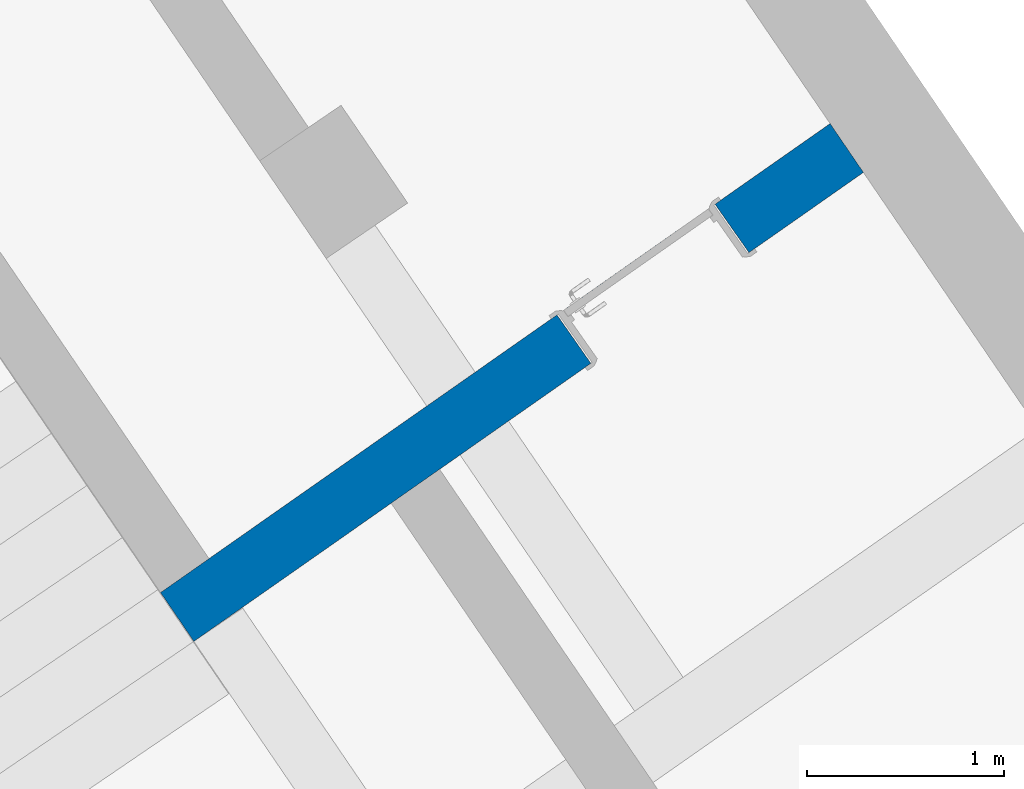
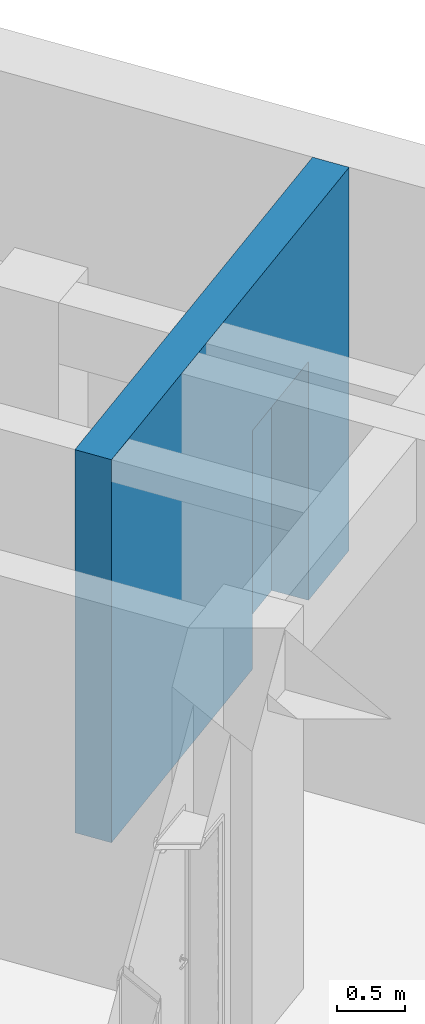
# One storey, part 71 of 112: 1 wall, 1 opening.
"""IFC2X3 building model written with IfcOpenShell, lengths in millimetres."""

from ifc_helpers import new_model, entity, si_unit, converted_unit, derived_unit, direction, frame, frame_2d, origin, place, context, subcontext, project, spatial, polyline, rectangle, outline, extrude, material, layer, layer_set, layer_usage, type_object, element, save


model = new_model("IFC2X3")

# Units and contexts
model_context = context("Model", 3, precision=0.01, world=origin(), true_north=direction((6.123031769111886e-17, 1.0)))
body_context = subcontext(model_context, "Body", "Model", "MODEL_VIEW")
ifc_project = project(units=[si_unit("LENGTHUNIT", "METRE", prefix="MILLI"), si_unit("AREAUNIT", "SQUARE_METRE"), si_unit("VOLUMEUNIT", "CUBIC_METRE"), converted_unit("PLANEANGLEUNIT", "DEGREE", entity("IfcRatioMeasure", 0.017453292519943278), si_unit("PLANEANGLEUNIT", "RADIAN"), dimensions=[0, 0, 0, 0, 0, 0, 0]), si_unit("MASSUNIT", "GRAM", prefix="KILO"), derived_unit("MASSDENSITYUNIT", [(si_unit("MASSUNIT", "GRAM", prefix="KILO"), 1), (si_unit("LENGTHUNIT", "METRE"), -3)]), derived_unit("MOMENTOFINERTIAUNIT", [(si_unit("LENGTHUNIT", "METRE"), 4)]), si_unit("TIMEUNIT", "SECOND"), si_unit("FREQUENCYUNIT", "HERTZ"), si_unit("THERMODYNAMICTEMPERATUREUNIT", "DEGREE_CELSIUS"), derived_unit("THERMALTRANSMITTANCEUNIT", [(si_unit("MASSUNIT", "GRAM", prefix="KILO"), 1), (si_unit("THERMODYNAMICTEMPERATUREUNIT", "KELVIN"), -1), (si_unit("TIMEUNIT", "SECOND"), -3)]), derived_unit("THERMALCONDUCTANCEUNIT", [(si_unit("MASSUNIT", "GRAM", prefix="KILO"), 1), (si_unit("LENGTHUNIT", "METRE"), 1), (si_unit("THERMODYNAMICTEMPERATUREUNIT", "KELVIN"), -1), (si_unit("TIMEUNIT", "SECOND"), -3)]), derived_unit("VOLUMETRICFLOWRATEUNIT", [(si_unit("LENGTHUNIT", "METRE"), 3), (si_unit("TIMEUNIT", "SECOND"), -1)]), derived_unit("MASSFLOWRATEUNIT", [(si_unit("MASSUNIT", "GRAM", prefix="KILO"), 1), (si_unit("TIMEUNIT", "SECOND"), -1)]), derived_unit("ROTATIONALFREQUENCYUNIT", [(si_unit("TIMEUNIT", "SECOND"), -1)]), si_unit("ELECTRICCURRENTUNIT", "AMPERE"), si_unit("ELECTRICVOLTAGEUNIT", "VOLT"), si_unit("POWERUNIT", "WATT"), converted_unit("FORCEUNIT", "KIP", entity("IfcRatioMeasure", 2.088543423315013e-05), si_unit("FORCEUNIT", "NEWTON"), dimensions=[1, 1, -2, 0, 0, 0, 0]), si_unit("ILLUMINANCEUNIT", "LUX"), si_unit("LUMINOUSFLUXUNIT", "LUMEN"), si_unit("LUMINOUSINTENSITYUNIT", "CANDELA"), derived_unit("USERDEFINED", [(si_unit("MASSUNIT", "GRAM", prefix="KILO"), -1), (si_unit("LENGTHUNIT", "METRE"), -2), (si_unit("TIMEUNIT", "SECOND"), 3), (si_unit("LUMINOUSFLUXUNIT", "LUMEN"), 1)]), derived_unit("USERDEFINED", [(si_unit("MASSUNIT", "GRAM", prefix="KILO"), 1), (si_unit("LENGTHUNIT", "METRE"), 3), (si_unit("TIMEUNIT", "SECOND"), -3), (si_unit("ELECTRICCURRENTUNIT", "AMPERE"), -2)]), derived_unit("USERDEFINED", [(si_unit("LENGTHUNIT", "METRE"), 2), (si_unit("TIMEUNIT", "SECOND"), -2)]), derived_unit("SOUNDPOWERUNIT", [(si_unit("MASSUNIT", "GRAM", prefix="KILO"), 1), (si_unit("LENGTHUNIT", "METRE"), 2), (si_unit("TIMEUNIT", "SECOND"), -3)]), derived_unit("SOUNDPRESSUREUNIT", [(si_unit("MASSUNIT", "GRAM", prefix="KILO"), 1), (si_unit("LENGTHUNIT", "METRE"), -1), (si_unit("TIMEUNIT", "SECOND"), -2)]), derived_unit("LINEARVELOCITYUNIT", [(si_unit("LENGTHUNIT", "METRE"), 1), (si_unit("TIMEUNIT", "SECOND"), -1)]), si_unit("PRESSUREUNIT", "PASCAL"), derived_unit("USERDEFINED", [(si_unit("LENGTHUNIT", "METRE"), -2), (si_unit("MASSUNIT", "GRAM", prefix="KILO"), 1), (si_unit("TIMEUNIT", "SECOND"), -2)]), derived_unit("LINEARFORCEUNIT", [(si_unit("MASSUNIT", "GRAM", prefix="KILO"), 1), (si_unit("LENGTHUNIT", "METRE"), 1), (si_unit("TIMEUNIT", "SECOND"), -2), (si_unit("LENGTHUNIT", "METRE"), -1)]), derived_unit("PLANARFORCEUNIT", [(si_unit("MASSUNIT", "GRAM", prefix="KILO"), 1), (si_unit("LENGTHUNIT", "METRE"), 1), (si_unit("TIMEUNIT", "SECOND"), -2), (si_unit("LENGTHUNIT", "METRE"), -2)]), derived_unit("SPECIFICHEATCAPACITYUNIT", [(si_unit("LENGTHUNIT", "METRE"), 2), (si_unit("TIMEUNIT", "SECOND"), -2), (si_unit("THERMODYNAMICTEMPERATUREUNIT", "KELVIN"), -1)]), derived_unit("VAPORPERMEABILITYUNIT", [(si_unit("TIMEUNIT", "SECOND"), 1), (si_unit("LENGTHUNIT", "METRE"), -1)]), derived_unit("DYNAMICVISCOSITYUNIT", [(si_unit("MASSUNIT", "GRAM", prefix="KILO"), 1), (si_unit("LENGTHUNIT", "METRE"), -1), (si_unit("TIMEUNIT", "SECOND"), -1)]), derived_unit("THERMALEXPANSIONCOEFFICIENTUNIT", [(si_unit("THERMODYNAMICTEMPERATUREUNIT", "KELVIN"), -1)])], contexts=[model_context])

# Site, building, storey
site_placement = place(None, frame((0.0, 0.0, 0.0), z_axis=(0.0, 0.0, 1.0), x_axis=(0.8191520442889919, 0.5735764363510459, 0.0)))
site = spatial("IfcSite", under=ifc_project, at=site_placement, Name="Default", CompositionType="ELEMENT")
building_placement = place(site_placement, origin())
building = spatial("IfcBuilding", under=site, at=building_placement, CompositionType="ELEMENT")
storey_placement = place(building_placement, frame((0.0, 0.0, -3600.0)))
storey = spatial("IfcBuildingStorey", under=building, at=storey_placement, Name="0.UG -3.60", CompositionType="ELEMENT", Elevation=-3600.0000000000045)

# Wall, opening
ifc_material = material(Name="Analytical Wall Surface_CJC")
ifc_layer = layer(ifc_material, 300.0)
ifc_layer_set = layer_set([ifc_layer], Name="Basic Wall:Wand_Innen_30")
ifc_layer_usage = layer_usage(ifc_layer_set, "AXIS2", "NEGATIVE", 150.0)
wall_type = type_object("IfcWallType", Name="Basic Wall:Wand_Innen_30", PredefinedType="STANDARD", material=ifc_layer_set)
wall_placement = place(storey_placement, frame((-204605.83041580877, 165896.35950974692, 0.0), z_axis=(0.0, 0.0, 1.0), x_axis=(-0.9999999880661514, -0.00015449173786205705, 0.0)))
wall = element("IfcWallStandardCase", 1, at=wall_placement, inside=storey, type_object=wall_type, material=ifc_layer_usage, Name="Basic Wall:Wand_Innen_30", ObjectType="Basic Wall:Wand_Innen_30", context=body_context, shape_type="SweptSolid", body=[
    extrude(outline(polyline([(0.0, -150.0), (2200.1841183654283, -150.0), (2500.2090213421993, -150.0), (3850.321084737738, -150.0), (4150.345987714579, -150.0), (4154.211528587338, 150.0), (2931.2176244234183, 150.0), (2631.1927214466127, 150.0), (2504.0745622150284, 150.0), (2204.0496592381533, 150.0), (3.865474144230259, 150.0), (0.0, -150.0)])), origin(), (0.0, 0.0, 1.0), 3450.0),
])
opening_placement = place(wall_placement, frame((1693.4597764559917, 150.26162733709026, 0.0)))
element("IfcOpeningElement", 2, at=opening_placement, cuts=wall, Name="Doors_IntSgl:90x210:1", ObjectType="Opening", context=body_context, shape_type="SweptSolid", body=[
    extrude(rectangle(XDim=2150.000000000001, YDim=979.9999999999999, at=frame_2d((1075.0000000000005, 489.99999999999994), x_axis=(1.0, 0.0))), frame((0.0, 0.0, 0.0), z_axis=(0.00015449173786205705, -0.9999999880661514, 0.0), x_axis=(0.0, 0.0, 1.0)), (0.0, 0.0, 1.0), 300.0),
])

save(model, "model.ifc")
